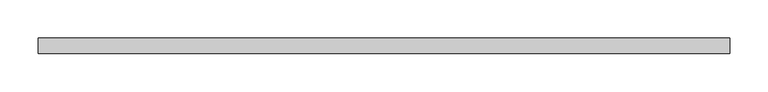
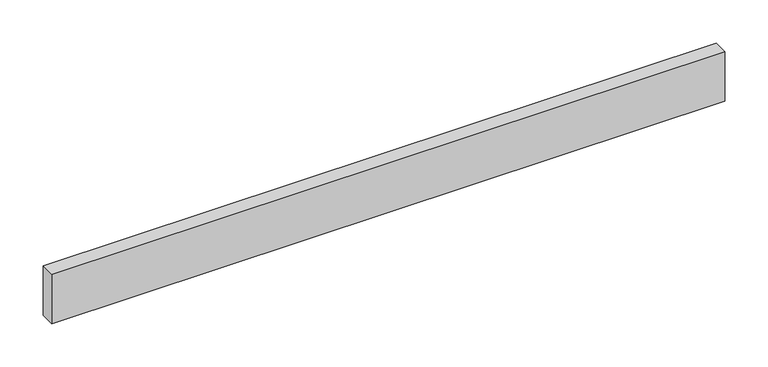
"""IFC4 building model written with IfcOpenShell, lengths in millimetres: furniture geometry, Frontispício : Frontispício."""

from ifc_helpers import new_model, si_unit, origin, origin_with_axes, place, context, project, spatial, polyline, outline, extrude, source, transform, mapped, element, save


def furniture_a7434cbe(model_context):
    return source(origin(), model_context, "Body", "SweptSolid", [
        extrude(outline(polyline([(173.677619, 0.0), (173.677619, -20.0), (-726.322381, -20.0), (-726.322381, 0.0), (173.677619, 0.0)])), origin_with_axes(), (0.0, 0.0, 1.0), 70.0),
    ])


if __name__ == "__main__":
    model = new_model("IFC4")
    model_context = context("Model", 3, world=origin())
    ifc_project = project(units=[si_unit("LENGTHUNIT", "METRE", prefix="MILLI")], contexts=[model_context])
    site = spatial("IfcSite", under=ifc_project)
    building = spatial("IfcBuilding", under=site)
    placement = place(None, origin())
    furniture_shape = furniture_a7434cbe(model_context)
    element("IfcFurniture", 1, ObjectType="Frontispício : Frontispício", at=placement, inside=building, context=model_context, shape_type="MappedRepresentation", body=[
        mapped(furniture_shape, transform((0.0, 0.0, 0.0), x_axis=(1.0, 0.0, 0.0), y_axis=(0.0, 1.0, 0.0), z_axis=(0.0, 0.0, 1.0))),
    ])
    save(model, "model.ifc")
